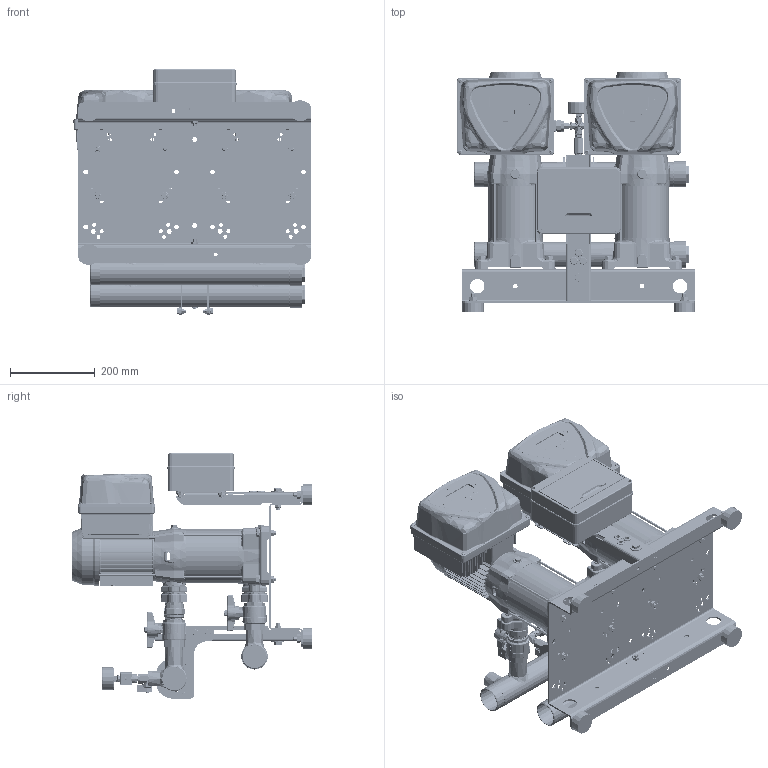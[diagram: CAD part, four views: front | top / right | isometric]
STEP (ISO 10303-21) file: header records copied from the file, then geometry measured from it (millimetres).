
FILE_DESCRIPTION((''),'2;1');
FILE_NAME('2GPE_CVM_B15_ESPM_REV4_ASM','2024-12-03T11:46:57',('Utente'),('"Ebara Pumps Europe S.p.A"'),'CREO PARAMETRIC BY PTC INC, 2022124','CREO PARAMETRIC BY PTC INC, 2022124','');
FILE_SCHEMA(('AUTOMOTIVE_DESIGN { 1 0 10303 214 1 1 1 1 }'));
Products named in the file (45): 62508_275562936; CALOTTA_F_A304_DN50_369800820; VAL_INT_MF_OTN_CIM301-14_DN32; VAL_INT_M-F_OTN_CIM301_DN32_ASM; EP_CVM_B-15_R; EP_CVM_B-15_R_ASM; ADATTATORE_E-SPD_MEC71; E-SPD_ADATTATORE_MEC71_ASM; BACK_E-SPD_PLUS_2200-4000; COVER_E-SPD_PLUS_2200-4000; COM_E-SPDM_MEC71_VERT_ASM; VAL-NR-MF-OTN-CIM32-DN32; VALV_NR_MF_CIM32_DN32_ASM; RONDEL-P_FE_ZN_UNI6592_M10; DADO_AUTOAGG_M10_ESAG; VITI_TE_ISO4017_M10_L40; 62513_275562944; VAL_INT_MF_OTN_CIM012_DN8; NIPPLO_OTG_8_380000861; CROCE_OTG_DN8_380000881; TRASD_16BAR_460500024; MAN_POS_D50_10BAR_361600003; BASE_2GP_I300-B300_DNRV; MONTANTE_H300_271472898; PIEDINO_CIL_369650010; DADI_NORM_ISO4032_FE_ZN_M10; RONDEL-P_ZN_UNI6593_M10X30X2-5; VITI_TE_ISO4017_M10_L45; TRAVERSO_MONT_L200_271472882; RONDEL-P_FE_ZN_UNI6593_M6X18X2; RONDEL-P_FE_ZN_UNI6592_M6; VITI_TE_ISO4017_M6_L20; DADI_NORM_ISO4032_FE_ZN_M6; DNRV_2P_I300-B300_H300-Q195X150_ASM; QUADRO_PROT_2P_M_ELENTEK; PG_PVC_D10-5_380000891; TAPPO-SALVAFIL_D31; 271473006; 271472998; 72578_271473004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
Assembly tree (134 placements, depth 3):
  2GPE_CVM_B15_ESPM_REV4_ASM
    62508_275562936
    CALOTTA_F_A304_DN50_369800820  x2
    VAL_INT_M-F_OTN_CIM301_DN32_ASM  x4
      VAL_INT_MF_OTN_CIM301-14_DN32
    EP_CVM_B-15_R_ASM  x2
      EP_CVM_B-15_R
    E-SPD_ADATTATORE_MEC71_ASM  x2
      ADATTATORE_E-SPD_MEC71
    COM_E-SPDM_MEC71_VERT_ASM  x2
      BACK_E-SPD_PLUS_2200-4000
      COVER_E-SPD_PLUS_2200-4000
    VALV_NR_MF_CIM32_DN32_ASM  x2
      VAL-NR-MF-OTN-CIM32-DN32
    RONDEL-P_FE_ZN_UNI6592_M10  x8
    DADO_AUTOAGG_M10_ESAG  x9
    VITI_TE_ISO4017_M10_L40  x8
    62513_275562944
    VAL_INT_MF_OTN_CIM012_DN8
    NIPPLO_OTG_8_380000861
    CROCE_OTG_DN8_380000881
    TRASD_16BAR_460500024  x2
    MAN_POS_D50_10BAR_361600003
    DNRV_2P_I300-B300_H300-Q195X150_ASM
      BASE_2GP_I300-B300_DNRV
      MONTANTE_H300_271472898
      PIEDINO_CIL_369650010  x4
      RONDEL-P_FE_ZN_UNI6592_M10  x4
      DADI_NORM_ISO4032_FE_ZN_M10  x4
      RONDEL-P_ZN_UNI6593_M10X30X2-5
      VITI_TE_ISO4017_M10_L45
      TRAVERSO_MONT_L200_271472882  x2
      RONDEL-P_FE_ZN_UNI6593_M6X18X2  x8
      RONDEL-P_FE_ZN_UNI6592_M6  x4
      VITI_TE_ISO4017_M6_L20  x4
      DADI_NORM_ISO4032_FE_ZN_M6  x4
      DADO_AUTOAGG_M10_ESAG
    QUADRO_PROT_2P_M_ELENTEK
    PG_PVC_D10-5_380000891  x3
    TAPPO-SALVAFIL_D31  x2
    271473006
    271472998  x2
    72578_271473004  x2
    RONDEL-P_ZN_UNI6593_M10X30X2-5
    VITI_TE_ISO4017_M10_L45
    RONDEL-P_FE_ZN_UNI6592_M8  x12
    VITI_TE_ISO4017_M8_L18  x8
    DADI_NORM_ISO4032_FE_ZN_M8  x4
    DADO_AUTOAGG_M8_ESAG  x4
Bounding box: 562.5 x 565.6 x 581.25 mm (x, y, z)
Volume: 4060546 mm3; surface area: 4464140.8 mm2
Topology: 296 solids, 1277 shells, 32658 faces, 85173 edges, 52542 vertices
Faces by surface type: plane 15767, cylinder 8005, bspline 2637, sphere 2073, cone 1521, extrusion 1426, torus 1229
Entity records: 735259 total; most frequent: CARTESIAN_POINT 288258, ORIENTED_EDGE 74528, DIRECTION 71820, EDGE_CURVE 38610, VERTEX_POINT 24222, AXIS2_PLACEMENT_3D 23963, VECTOR 23762, LINE 23132
